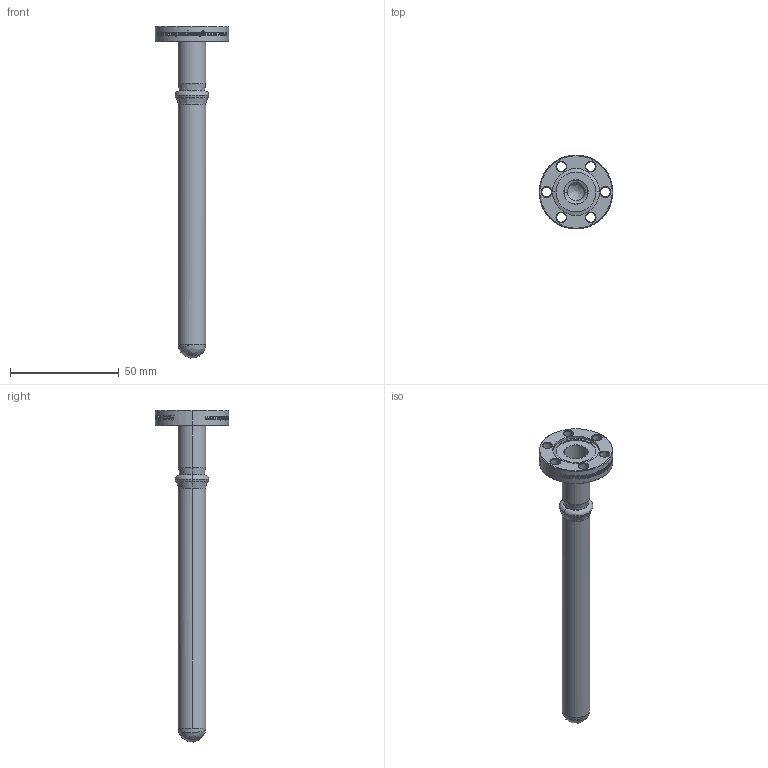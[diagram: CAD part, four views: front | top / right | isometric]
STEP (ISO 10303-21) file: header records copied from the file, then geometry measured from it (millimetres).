
FILE_DESCRIPTION (( 'STEP AP203' ), '1' );
FILE_NAME ('211000.stp', '2018-05-21T23:26:13', ( '' ), ( '' ), 'SwSTEP 2.0', 'SolidWorks 2012', '' );
FILE_SCHEMA (( 'CONFIG_CONTROL_DESIGN' ));
Length unit declared in the file: centimetre
Products named in the file (1): 211000
Bounding box: 33.78 x 33.78 x 152.36 mm (x, y, z)
Volume: 10373 mm3; surface area: 13851.4 mm2
Topology: 1 solids, 1 shells, 881 faces, 2410 edges, 1589 vertices
Faces by surface type: bspline 530, plane 231, cylinder 88, cone 32
Entity records: 64599 total; most frequent: CARTESIAN_POINT 45475, ORIENTED_EDGE 4808, DIRECTION 2450, EDGE_CURVE 2404, VERTEX_POINT 1589, B_SPLINE_CURVE_WITH_KNOTS 1028, LINE 1006, VECTOR 1006
